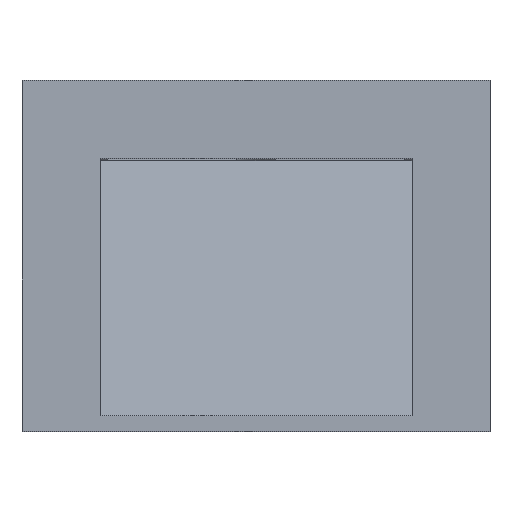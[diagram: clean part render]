
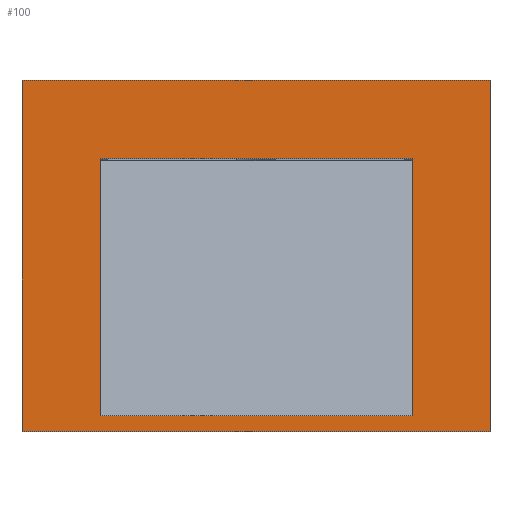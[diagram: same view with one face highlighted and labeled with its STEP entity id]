
A CAD part, top view. The second image highlights one B-rep face of the part: STEP entity #100.
In plain terms, the highlighted planar face has unit normal (0, 0, 1).
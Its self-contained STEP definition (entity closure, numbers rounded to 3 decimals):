
#47=FACE_BOUND('',#223,.T.);
#48=FACE_BOUND('',#224,.T.);
#100=ADVANCED_FACE('',(#47,#48),#145,.F.);
#145=PLANE('',#883);
#223=EDGE_LOOP('',(#365,#366,#367,#368));
#224=EDGE_LOOP('',(#369,#370,#371,#372));
#365=ORIENTED_EDGE('',*,*,#608,.F.);
#366=ORIENTED_EDGE('',*,*,#645,.F.);
#367=ORIENTED_EDGE('',*,*,#643,.T.);
#368=ORIENTED_EDGE('',*,*,#646,.T.);
#369=ORIENTED_EDGE('',*,*,#647,.T.);
#370=ORIENTED_EDGE('',*,*,#606,.T.);
#371=ORIENTED_EDGE('',*,*,#581,.F.);
#372=ORIENTED_EDGE('',*,*,#648,.F.);
#503=VERTEX_POINT('',#1197);
#504=VERTEX_POINT('',#1199);
#524=VERTEX_POINT('',#1248);
#525=VERTEX_POINT('',#1252);
#526=VERTEX_POINT('',#1253);
#548=VERTEX_POINT('',#1350);
#549=VERTEX_POINT('',#1352);
#550=VERTEX_POINT('',#1358);
#581=EDGE_CURVE('',#503,#504,#691,.T.);
#606=EDGE_CURVE('',#524,#504,#712,.T.);
#608=EDGE_CURVE('',#525,#526,#714,.T.);
#643=EDGE_CURVE('',#549,#548,#740,.T.);
#645=EDGE_CURVE('',#549,#525,#742,.T.);
#646=EDGE_CURVE('',#548,#526,#743,.T.);
#647=EDGE_CURVE('',#550,#524,#744,.T.);
#648=EDGE_CURVE('',#550,#503,#745,.T.);
#691=LINE('',#1198,#783);
#712=LINE('',#1247,#804);
#714=LINE('',#1251,#806);
#740=LINE('',#1351,#832);
#742=LINE('',#1355,#834);
#743=LINE('',#1356,#835);
#744=LINE('',#1357,#836);
#745=LINE('',#1359,#837);
#783=VECTOR('',#947,1.);
#804=VECTOR('',#984,1.);
#806=VECTOR('',#988,1.);
#832=VECTOR('',#1042,1.);
#834=VECTOR('',#1046,1.);
#835=VECTOR('',#1047,1.);
#836=VECTOR('',#1048,1.);
#837=VECTOR('',#1049,1.);
#883=AXIS2_PLACEMENT_3D('',#1360,#1050,#1051);
#947=DIRECTION('',(0.,-1.,0.));
#984=DIRECTION('',(-1.,0.,0.));
#988=DIRECTION('',(-1.,0.,0.));
#1042=DIRECTION('',(-1.,0.,0.));
#1046=DIRECTION('',(0.,-1.,0.));
#1047=DIRECTION('',(0.,-1.,0.));
#1048=DIRECTION('',(0.,-1.,0.));
#1049=DIRECTION('',(-1.,0.,0.));
#1050=DIRECTION('',(0.,0.,-1.));
#1051=DIRECTION('',(-1.,0.,0.));
#1197=CARTESIAN_POINT('',(-200.,28.,0.));
#1198=CARTESIAN_POINT('',(-200.,128.,0.));
#1199=CARTESIAN_POINT('',(-200.,-302.,0.));
#1247=CARTESIAN_POINT('',(200.,-302.,0.));
#1248=CARTESIAN_POINT('',(200.,-302.,0.));
#1251=CARTESIAN_POINT('',(200.,-322.,0.));
#1252=CARTESIAN_POINT('',(300.,-322.,0.));
#1253=CARTESIAN_POINT('',(-300.,-322.,0.));
#1350=CARTESIAN_POINT('',(-300.,128.,0.));
#1351=CARTESIAN_POINT('',(200.,128.,0.));
#1352=CARTESIAN_POINT('',(300.,128.,0.));
#1355=CARTESIAN_POINT('',(300.,128.,0.));
#1356=CARTESIAN_POINT('',(-300.,128.,0.));
#1357=CARTESIAN_POINT('',(200.,128.,0.));
#1358=CARTESIAN_POINT('',(200.,28.,0.));
#1359=CARTESIAN_POINT('',(200.,28.,0.));
#1360=CARTESIAN_POINT('',(200.,128.,0.));
